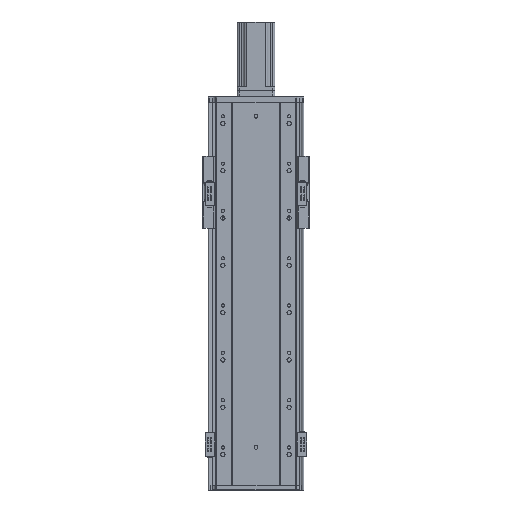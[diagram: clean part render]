
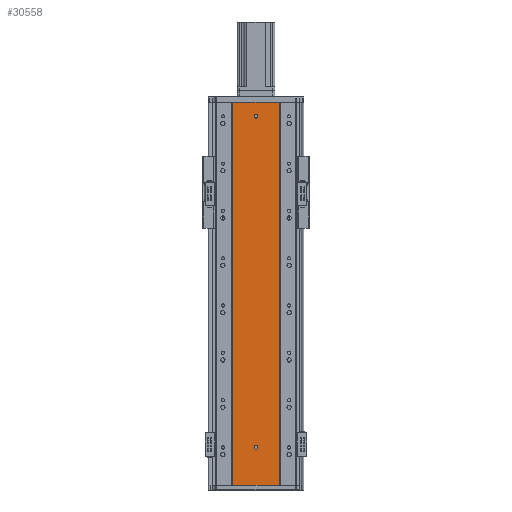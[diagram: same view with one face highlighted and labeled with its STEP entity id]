
A CAD part, front view. The second image highlights one B-rep face of the part: STEP entity #30558.
In plain terms, the highlighted planar face has unit normal (0, -1, 0).
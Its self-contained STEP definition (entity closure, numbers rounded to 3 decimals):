
#67 = DIRECTION ( 'NONE',  ( 0., -1., 0. ) ) ;
#70 = DIRECTION ( 'NONE',  ( 0., 0., -1. ) ) ;
#76 = CARTESIAN_POINT ( 'NONE',  ( 136.47, 79.476, 80. ) ) ;
#95 = DIRECTION ( 'NONE',  ( 0., -1., 0. ) ) ;
#99 = DIRECTION ( 'NONE',  ( 0., 0., -1. ) ) ;
#106 = CARTESIAN_POINT ( 'NONE',  ( 136.47, 79.476, 780. ) ) ;
#2871 = B_SPLINE_CURVE_WITH_KNOTS ( 'NONE', 3,
 ( #6317, #6318, #6322, #6292 ),
 .UNSPECIFIED., .F., .F.,
 ( 4, 4 ),
 ( 0., 1. ),
 .UNSPECIFIED. ) ;
#3018 = B_SPLINE_CURVE_WITH_KNOTS ( 'NONE', 3,
 ( #6261, #6289, #6269, #6266 ),
 .UNSPECIFIED., .F., .F.,
 ( 4, 4 ),
 ( 0., 1. ),
 .UNSPECIFIED. ) ;
#6257 = DIRECTION ( 'NONE',  ( 1., 0., 0. ) ) ;
#6261 = CARTESIAN_POINT ( 'NONE',  ( 86.97, 79.476, 810. ) ) ;
#6266 = CARTESIAN_POINT ( 'NONE',  ( 86.97, 79.476, 0. ) ) ;
#6269 = CARTESIAN_POINT ( 'NONE',  ( 86.97, 79.476, 270. ) ) ;
#6272 = CARTESIAN_POINT ( 'NONE',  ( 0., 79.476, 0. ) ) ;
#6289 = CARTESIAN_POINT ( 'NONE',  ( 86.97, 79.476, 540. ) ) ;
#6292 = CARTESIAN_POINT ( 'NONE',  ( 185.97, 79.476, 0. ) ) ;
#6317 = CARTESIAN_POINT ( 'NONE',  ( 185.97, 79.476, 810. ) ) ;
#6318 = CARTESIAN_POINT ( 'NONE',  ( 185.97, 79.476, 540. ) ) ;
#6319 = CARTESIAN_POINT ( 'NONE',  ( 136.47, 79.476, 780. ) ) ;
#6320 = DIRECTION ( 'NONE',  ( 0., -1., 0. ) ) ;
#6321 = DIRECTION ( 'NONE',  ( 0., 0., -1. ) ) ;
#6322 = CARTESIAN_POINT ( 'NONE',  ( 185.97, 79.476, 270. ) ) ;
#6333 = CARTESIAN_POINT ( 'NONE',  ( 0., 79.476, 810. ) ) ;
#6337 = DIRECTION ( 'NONE',  ( 1., 0., 0. ) ) ;
#6418 = CARTESIAN_POINT ( 'NONE',  ( 136.47, 79.476, 80. ) ) ;
#6437 = DIRECTION ( 'NONE',  ( 0., 0., -1. ) ) ;
#6443 = DIRECTION ( 'NONE',  ( 0., -1., 0. ) ) ;
#8477 = AXIS2_PLACEMENT_3D ( 'NONE', #106, #95, #70 ) ;
#8479 = AXIS2_PLACEMENT_3D ( 'NONE', #76, #67, #99 ) ;
#9780 = PLANE ( 'NONE',  #25349 ) ;
#9789 = CARTESIAN_POINT ( 'NONE',  ( 0., 79.476, 810. ) ) ;
#9794 = DIRECTION ( 'NONE',  ( 0., 1., 0. ) ) ;
#9797 = DIRECTION ( 'NONE',  ( 0., 0., 1. ) ) ;
#12185 = VERTEX_POINT ( 'NONE', #36568 ) ;
#12239 = VERTEX_POINT ( 'NONE', #36620 ) ;
#12256 = VERTEX_POINT ( 'NONE', #36630 ) ;
#12279 = VERTEX_POINT ( 'NONE', #36702 ) ;
#14696 = EDGE_LOOP ( 'NONE', ( #38692, #38711 ) ) ;
#14720 = EDGE_LOOP ( 'NONE', ( #38667, #38686, #38685, #38713 ) ) ;
#17537 = VERTEX_POINT ( 'NONE', #20639 ) ;
#19015 = VERTEX_POINT ( 'NONE', #20946 ) ;
#19085 = VERTEX_POINT ( 'NONE', #20934 ) ;
#19087 = VERTEX_POINT ( 'NONE', #20976 ) ;
#20639 = CARTESIAN_POINT ( 'NONE',  ( 185.97, 79.476, 810. ) ) ;
#20934 = CARTESIAN_POINT ( 'NONE',  ( 86.97, 79.476, 810. ) ) ;
#20946 = CARTESIAN_POINT ( 'NONE',  ( 185.97, 79.476, 0. ) ) ;
#20976 = CARTESIAN_POINT ( 'NONE',  ( 86.97, 79.476, 0. ) ) ;
#23611 = EDGE_CURVE ( 'NONE', #12239, #12185, #39521, .T. ) ;
#23617 = EDGE_CURVE ( 'NONE', #12279, #12256, #39559, .T. ) ;
#23744 = EDGE_LOOP ( 'NONE', ( #38664, #38666 ) ) ;
#25349 = AXIS2_PLACEMENT_3D ( 'NONE', #9789, #9794, #9797 ) ;
#26135 = AXIS2_PLACEMENT_3D ( 'NONE', #6319, #6320, #6321 ) ;
#26327 = AXIS2_PLACEMENT_3D ( 'NONE', #6418, #6443, #6437 ) ;
#30002 = VECTOR ( 'NONE', #6257, 1000. ) ;
#30010 = LINE ( 'NONE', #6272, #30002 ) ;
#30025 = CIRCLE ( 'NONE', #26135, 4. ) ;
#30045 = VECTOR ( 'NONE', #6337, 1000. ) ;
#30075 = LINE ( 'NONE', #6333, #30045 ) ;
#30233 = CIRCLE ( 'NONE', #26327, 4. ) ;
#30558 = ADVANCED_FACE ( 'NONE', ( #35900, #35930, #35939 ), #9780, .F. ) ;
#34298 = EDGE_CURVE ( 'NONE', #19085, #19087, #3018, .T. ) ;
#34304 = EDGE_CURVE ( 'NONE', #19087, #19015, #30010, .T. ) ;
#34318 = EDGE_CURVE ( 'NONE', #12185, #12239, #30025, .T. ) ;
#34319 = EDGE_CURVE ( 'NONE', #17537, #19015, #2871, .T. ) ;
#34341 = EDGE_CURVE ( 'NONE', #19085, #17537, #30075, .T. ) ;
#34376 = EDGE_CURVE ( 'NONE', #12256, #12279, #30233, .T. ) ;
#35900 = FACE_BOUND ( 'NONE', #23744, .T. ) ;
#35930 = FACE_BOUND ( 'NONE', #14696, .T. ) ;
#35939 = FACE_OUTER_BOUND ( 'NONE', #14720, .T. ) ;
#36568 = CARTESIAN_POINT ( 'NONE',  ( 136.47, 79.476, 776. ) ) ;
#36620 = CARTESIAN_POINT ( 'NONE',  ( 136.47, 79.476, 784. ) ) ;
#36630 = CARTESIAN_POINT ( 'NONE',  ( 136.47, 79.476, 76. ) ) ;
#36702 = CARTESIAN_POINT ( 'NONE',  ( 136.47, 79.476, 84. ) ) ;
#38664 = ORIENTED_EDGE ( 'NONE', *, *, #34318, .F. ) ;
#38666 = ORIENTED_EDGE ( 'NONE', *, *, #23611, .F. ) ;
#38667 = ORIENTED_EDGE ( 'NONE', *, *, #34304, .T. ) ;
#38685 = ORIENTED_EDGE ( 'NONE', *, *, #34341, .F. ) ;
#38686 = ORIENTED_EDGE ( 'NONE', *, *, #34319, .F. ) ;
#38692 = ORIENTED_EDGE ( 'NONE', *, *, #34376, .F. ) ;
#38711 = ORIENTED_EDGE ( 'NONE', *, *, #23617, .F. ) ;
#38713 = ORIENTED_EDGE ( 'NONE', *, *, #34298, .T. ) ;
#39521 = CIRCLE ( 'NONE', #8477, 4. ) ;
#39559 = CIRCLE ( 'NONE', #8479, 4. ) ;
